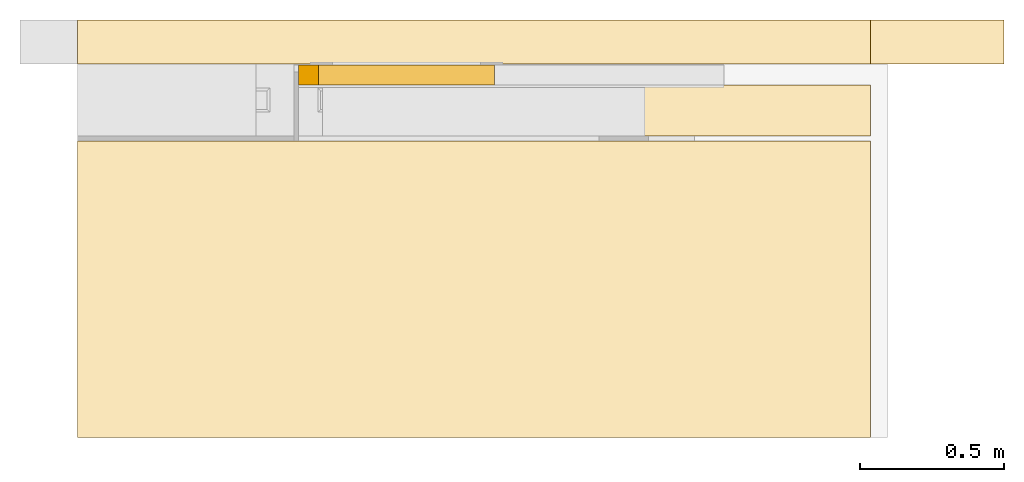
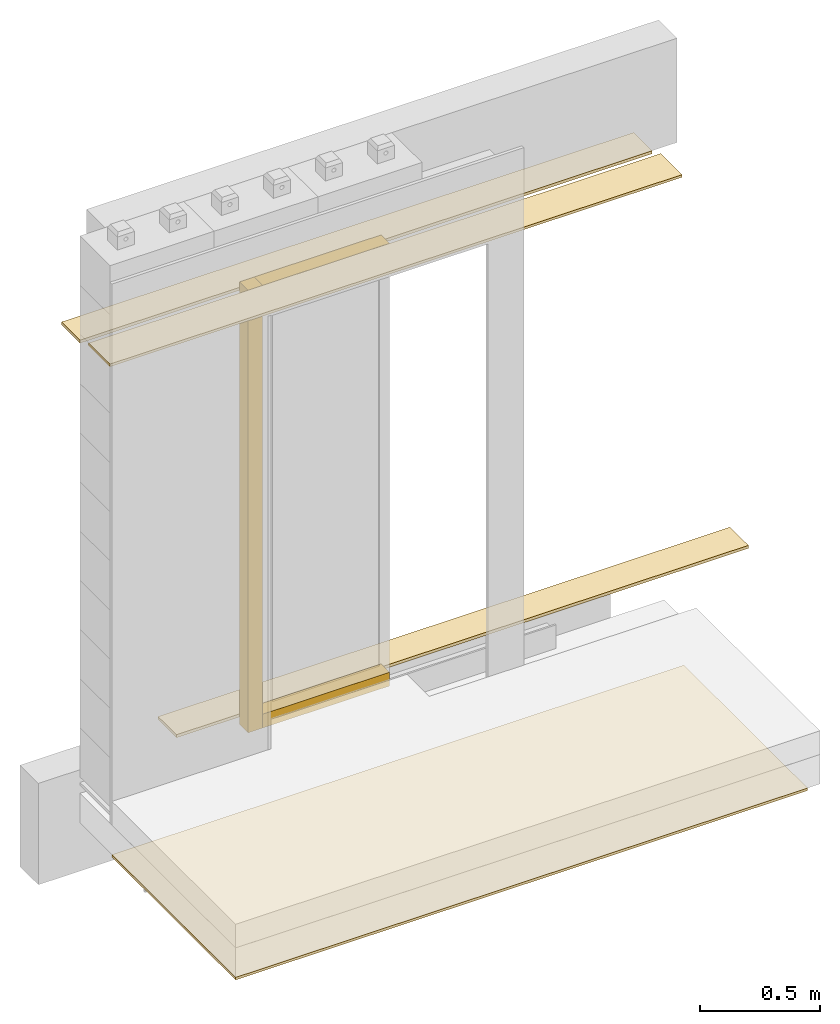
# One storey, part 2 of 3: 4 coverings, 3 windows.
"""IFC4 building model written with IfcOpenShell, lengths in centimetres."""

from ifc_helpers import new_model, entity, si_unit, converted_unit, direction, frame, origin, place, context, subcontext, project, spatial, indexed_curve, outline, extrude, source, transform, mapped, material, type_object, type_shapes, element, save


model = new_model("IFC4")

# Units and contexts
model_context = context("Model", 3, precision=0.001, world=origin(), true_north=direction((0.0, 1.0)))
body_context = subcontext(model_context, "Body", "Model", "MODEL_VIEW")
ifc_project = project(units=[si_unit("LENGTHUNIT", "METRE", prefix="CENTI"), si_unit("AREAUNIT", "SQUARE_METRE"), si_unit("VOLUMEUNIT", "CUBIC_METRE"), converted_unit("PLANEANGLEUNIT", "DEGREE", entity("IfcPlaneAngleMeasure", 0.017453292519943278), si_unit("PLANEANGLEUNIT", "RADIAN"), dimensions=[0, 0, 0, 0, 0, 0, 0])], contexts=[model_context])

# Site, building, storey
site_placement = place(None, origin())
site = spatial("IfcSite", under=ifc_project, at=site_placement, Name="Default", CompositionType="ELEMENT")
building_placement = place(site_placement, origin())
building = spatial("IfcBuilding", under=site, at=building_placement, CompositionType="ELEMENT")
storey_placement = place(building_placement, frame((0.0, 0.0, -12.0)))
storey = spatial("IfcBuildingStorey", under=building, at=storey_placement, Name="L00__ABOVE Slab", CompositionType="ELEMENT", Elevation=-12.000000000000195)

# Windows
ifc_material_1 = material(Name="_WINDOW__Profile__Aluminium", Category="Miscellaneous")
window_type_1 = type_object("IfcWindowType", Name="Windows : wdw_s__PROFILE__Frame__wp : Wood", PartitioningType="NOTDEFINED", PredefinedType="WINDOW", material=ifc_material_1)
shared_shape_1 = source(origin(), body_context, "Body", "SweptSolid", [
    extrude(outline(indexed_curve([(-3.4999999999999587, -3.5000000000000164), (3.4999999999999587, -3.5000000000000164), (3.4999999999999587, 3.5000000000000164), (-3.4999999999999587, 3.5000000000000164), (-3.4999999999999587, -3.5000000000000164)], self_intersect=False)), frame((3.5000000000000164, 3.4999999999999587, 0.0), z_axis=(0.0, 0.0, 1.0), x_axis=(0.0, -1.0, 0.0)), (0.0, 0.0, 1.0), 225.0),
])
type_shapes(window_type_1, [shared_shape_1])
window_1_placement = place(storey_placement, frame((2845.353960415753, 828.9989470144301, 12.800000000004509)))
element("IfcWindow", 1, at=window_1_placement, inside=storey, type_object=window_type_1, material=ifc_material_1, Name="Windows : wdw_s__PROFILE__Frame__wp : Wood", OverallHeight=28.355733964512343, OverallWidth=7.000000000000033, PartitioningType="NOTDEFINED", PredefinedType="WINDOW", context=body_context, shape_type="MappedRepresentation", body=[
    mapped(shared_shape_1, transform((0.0, 0.0, 0.0), scale=1.0)),
])
window_type_2 = type_object("IfcWindowType", Name="Windows : wdw_s__PROFILE__Frame__wp : Wood", PartitioningType="NOTDEFINED", PredefinedType="WINDOW", material=ifc_material_1)
shared_shape_2 = source(origin(), body_context, "Body", "SweptSolid", [
    extrude(outline(indexed_curve([(-3.4999999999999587, -3.5000000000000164), (3.4999999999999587, -3.5000000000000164), (3.4999999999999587, 3.5000000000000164), (-3.4999999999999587, 3.5000000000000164), (-3.4999999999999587, -3.5000000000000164)], self_intersect=False)), frame((3.5000000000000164, 3.4999999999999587, 0.0), z_axis=(0.0, 0.0, 1.0), x_axis=(0.0, -1.0, 0.0)), (0.0, 0.0, 1.0), 60.99999999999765),
])
type_shapes(window_type_2, [shared_shape_2])
window_2_placement = place(storey_placement, frame((2913.3539604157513, 828.9989470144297, 12.80000000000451), z_axis=(-1.0, 0.0, 0.0), x_axis=(0.0, 0.0, 1.0)))
element("IfcWindow", 2, at=window_2_placement, inside=storey, type_object=window_type_2, material=ifc_material_1, Name="Windows : wdw_s__PROFILE__Frame__wp : Wood", OverallHeight=28.355733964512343, OverallWidth=7.000000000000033, PartitioningType="NOTDEFINED", PredefinedType="WINDOW", context=body_context, shape_type="MappedRepresentation", body=[
    mapped(shared_shape_2, transform((0.0, 0.0, 0.0), scale=1.0)),
])
window_type_3 = type_object("IfcWindowType", Name="Windows : wdw_s__PROFILE__Frame__wp : Wood", PartitioningType="NOTDEFINED", PredefinedType="WINDOW", material=ifc_material_1)
shared_shape_3 = source(origin(), body_context, "Body", "SweptSolid", [
    extrude(outline(indexed_curve([(-3.5000000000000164, -3.4999999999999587), (3.5000000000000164, -3.4999999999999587), (3.5000000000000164, 3.4999999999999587), (-3.5000000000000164, 3.4999999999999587), (-3.5000000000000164, -3.4999999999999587)], self_intersect=False)), frame((3.5000000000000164, -3.4999999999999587, 0.0)), (0.0, 0.0, 1.0), 60.99999999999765),
])
type_shapes(window_type_3, [shared_shape_3])
window_3_placement = place(storey_placement, frame((2913.3539604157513, 828.9989470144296, 237.80000000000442), z_axis=(-1.0, 0.0, 0.0), x_axis=(0.0, 0.0, -1.0)))
element("IfcWindow", 3, at=window_3_placement, inside=storey, type_object=window_type_3, material=ifc_material_1, Name="Windows : wdw_s__PROFILE__Frame__wp : Wood", OverallHeight=28.355733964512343, OverallWidth=7.000000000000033, PartitioningType="NOTDEFINED", PredefinedType="WINDOW", context=body_context, shape_type="MappedRepresentation", body=[
    mapped(shared_shape_3, transform((0.0, 0.0, 0.0), scale=1.0)),
])

# Coverings
ifc_material_2 = material(Name="_STRUCTURE__Wood Solid")
covering_type_1 = type_object("IfcCoveringType", Name="Ceilings : Compound Ceiling : clg__INT COVERING__Wood", PredefinedType="CEILING")
covering_1_placement = place(storey_placement, frame((2768.749456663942, 836.2491393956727, 233.30000000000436)))
element("IfcCovering", 4, at=covering_1_placement, inside=storey, type_object=covering_type_1, material=ifc_material_2, Name="Ceilings : Compound Ceiling : clg__INT COVERING__Wood", PredefinedType="CEILING", context=body_context, shape_type="SweptSolid", body=[
    extrude(outline(indexed_curve([(-7.650000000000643, -137.49999999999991), (7.650000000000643, -137.49999999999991), (7.650000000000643, 137.50000000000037), (-7.650000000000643, 137.50000000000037), (-7.650000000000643, -137.49999999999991)], self_intersect=False)), frame((137.49999999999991, 7.650000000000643, 0.0), z_axis=(0.0, 0.0, 1.0), x_axis=(0.0, -1.0, 0.0)), (0.0, 0.0, 1.0), 1.5000000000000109),
])
covering_2_placement = place(storey_placement, frame((2815.1138963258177, 836.249139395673, 16.5)))
element("IfcCovering", 5, at=covering_2_placement, inside=storey, type_object=covering_type_1, material=ifc_material_2, Name="Ceilings : Compound Ceiling : clg__INT COVERING__Wood", PredefinedType="CEILING", context=body_context, shape_type="SweptSolid", body=[
    extrude(outline(indexed_curve([(-7.650000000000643, -137.50000000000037), (7.650000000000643, -137.50000000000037), (7.650000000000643, 137.49999999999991), (-7.650000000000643, 137.49999999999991), (-7.650000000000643, -137.50000000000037)], self_intersect=False)), frame((137.49999999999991, 7.650000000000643, 0.0), z_axis=(0.0, 0.0, 1.0), x_axis=(0.0, -1.0, 0.0)), (0.0, 0.0, 1.0), 1.5),
])
ifc_material_3 = material(Name="_WLL & CLG FINISHES__Lime - CEM Plaster", Category="Unassigned")
covering_type_2 = type_object("IfcCoveringType", Name="Ceilings : Compound Ceiling : clg__INT COVERING__, GB 1.5cm__12.5(A) 3", PredefinedType="CEILING")
covering_3_placement = place(storey_placement, frame((2768.749456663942, 811.24913939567, 236.50000000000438)))
element("IfcCovering", 6, at=covering_3_placement, inside=storey, type_object=covering_type_2, material=ifc_material_3, Name="Ceilings : Compound Ceiling : clg__INT COVERING__, GB 1.5cm__12.5(A) 3", PredefinedType="CEILING", context=body_context, shape_type="SweptSolid", body=[
    extrude(outline(indexed_curve([(-8.874903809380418, -137.49999999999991), (8.874903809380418, -137.49999999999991), (8.874903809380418, 137.50000000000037), (-8.874903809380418, 137.50000000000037), (-8.874903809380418, -137.49999999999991)], self_intersect=False)), frame((137.49999999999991, 8.874903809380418, 0.0), z_axis=(0.0, 0.0, 1.0), x_axis=(0.0, -1.0, 0.0)), (0.0, 0.0, 1.0), 1.3000000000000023),
])
covering_4_placement = place(storey_placement, frame((2768.749456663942, 706.6491393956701, -11.800000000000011)))
element("IfcCovering", 7, at=covering_4_placement, inside=storey, type_object=covering_type_2, material=ifc_material_3, Name="Ceilings : Compound Ceiling : clg__INT COVERING__, GB 1.5cm__12.5(A) 3", PredefinedType="CEILING", context=body_context, shape_type="SweptSolid", body=[
    extrude(outline(indexed_curve([(-51.500000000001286, -137.49999999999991), (51.500000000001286, -137.49999999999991), (51.500000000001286, 137.50000000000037), (-51.500000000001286, 137.50000000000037), (-51.500000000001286, -137.49999999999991)], self_intersect=False)), frame((137.49999999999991, 51.500000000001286, 0.0), z_axis=(0.0, 0.0, 1.0), x_axis=(0.0, -1.0, 0.0)), (0.0, 0.0, 1.0), 1.299999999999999),
])

save(model, "model.ifc")
